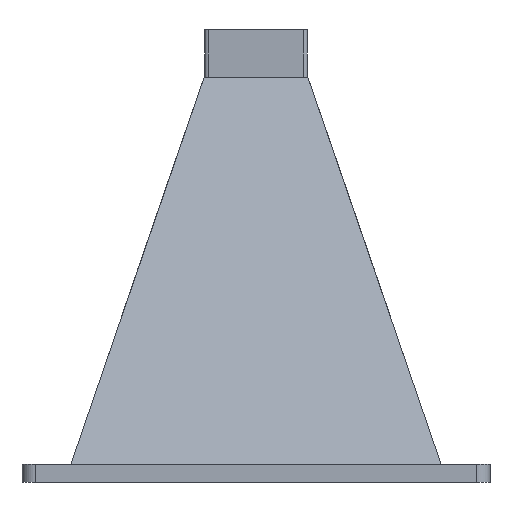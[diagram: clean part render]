
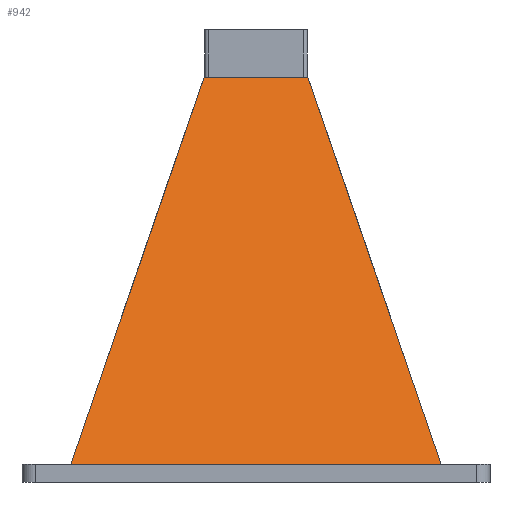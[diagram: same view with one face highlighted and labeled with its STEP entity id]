
A CAD part, front view. The second image highlights one B-rep face of the part: STEP entity #942.
In plain terms, the highlighted free-form (B-spline) face has degree [1, 1] with [2, 2] control points.
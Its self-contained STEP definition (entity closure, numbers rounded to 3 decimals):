
#43 = B_SPLINE_SURFACE_WITH_KNOTS('',1,1,(
    (#44,#45)
    ,(#46,#47
    )),.UNSPECIFIED.,.F.,.F.,.F.,(2,2),(2,2),(0.,85.112),(0.,1.
    ),.PIECEWISE_BEZIER_KNOTS.);
#44 = CARTESIAN_POINT('',(-11.538,-9.556,90.));
#45 = CARTESIAN_POINT('',(-42.538,-42.556,0.));
#46 = CARTESIAN_POINT('',(-11.538,9.556,90.));
#47 = CARTESIAN_POINT('',(-42.538,42.556,0.));
#70 = PLANE('',#71);
#71 = AXIS2_PLACEMENT_3D('',#72,#73,#74);
#72 = CARTESIAN_POINT('',(-11.538,9.556,90.));
#73 = DIRECTION('',(0.,0.,1.));
#74 = DIRECTION('',(0.77,-0.638,0.));
#97 = B_SPLINE_SURFACE_WITH_KNOTS('',1,1,(
    (#98,#99)
    ,(#100,#101
    )),.UNSPECIFIED.,.F.,.F.,.F.,(2,2),(2,2),(0.,85.112),(0.,1.
    ),.PIECEWISE_BEZIER_KNOTS.);
#98 = CARTESIAN_POINT('',(11.538,9.556,90.));
#99 = CARTESIAN_POINT('',(42.538,42.556,0.));
#100 = CARTESIAN_POINT('',(11.538,-9.556,90.));
#101 = CARTESIAN_POINT('',(42.538,-42.556,0.));
#121 = PLANE('',#122);
#122 = AXIS2_PLACEMENT_3D('',#123,#124,#125);
#123 = CARTESIAN_POINT('',(-52.,52.,4.));
#124 = DIRECTION('',(0.,0.,-1.));
#125 = DIRECTION('',(1.,0.,0.));
#135 = EDGE_CURVE('',#136,#138,#140,.T.);
#136 = VERTEX_POINT('',#137);
#137 = CARTESIAN_POINT('',(-11.538,-9.556,90.));
#138 = VERTEX_POINT('',#139);
#139 = CARTESIAN_POINT('',(-41.161,-41.09,4.));
#140 = SURFACE_CURVE('',#141,(#144,#151),.PCURVE_S1.);
#141 = B_SPLINE_CURVE_WITH_KNOTS('',1,(#142,#143),.UNSPECIFIED.,.F.,.F.,
  (2,2),(0.,1.),.PIECEWISE_BEZIER_KNOTS.);
#142 = CARTESIAN_POINT('',(-11.538,-9.556,90.));
#143 = CARTESIAN_POINT('',(-42.538,-42.556,0.));
#144 = PCURVE('',#43,#145);
#145 = DEFINITIONAL_REPRESENTATION('',(#146),#150);
#146 = LINE('',#147,#148);
#147 = CARTESIAN_POINT('',(0.,0.));
#148 = VECTOR('',#149,1.);
#149 = DIRECTION('',(0.,1.));
#150 = ( GEOMETRIC_REPRESENTATION_CONTEXT(2) 
PARAMETRIC_REPRESENTATION_CONTEXT() REPRESENTATION_CONTEXT('2D SPACE',''
  ) );
#151 = PCURVE('',#152,#157);
#152 = B_SPLINE_SURFACE_WITH_KNOTS('',1,1,(
    (#153,#154)
    ,(#155,#156
    )),.UNSPECIFIED.,.F.,.F.,.F.,(2,2),(2,2),(0.,85.077),(0.,1.
    ),.PIECEWISE_BEZIER_KNOTS.);
#153 = CARTESIAN_POINT('',(11.538,-9.556,90.));
#154 = CARTESIAN_POINT('',(42.538,-42.556,0.));
#155 = CARTESIAN_POINT('',(-11.538,-9.556,90.));
#156 = CARTESIAN_POINT('',(-42.538,-42.556,0.));
#157 = DEFINITIONAL_REPRESENTATION('',(#158),#162);
#158 = LINE('',#159,#160);
#159 = CARTESIAN_POINT('',(85.077,0.));
#160 = VECTOR('',#161,1.);
#161 = DIRECTION('',(0.,1.));
#162 = ( GEOMETRIC_REPRESENTATION_CONTEXT(2) 
PARAMETRIC_REPRESENTATION_CONTEXT() REPRESENTATION_CONTEXT('2D SPACE',''
  ) );
#550 = VERTEX_POINT('',#551);
#551 = CARTESIAN_POINT('',(41.161,-41.09,4.));
#571 = EDGE_CURVE('',#138,#550,#572,.T.);
#572 = SURFACE_CURVE('',#573,(#576,#582),.PCURVE_S1.);
#573 = B_SPLINE_CURVE_WITH_KNOTS('',1,(#574,#575),.UNSPECIFIED.,.F.,.F.,
  (2,2),(0.,1.),.PIECEWISE_BEZIER_KNOTS.);
#574 = CARTESIAN_POINT('',(-41.161,-41.09,4.));
#575 = CARTESIAN_POINT('',(41.161,-41.09,4.));
#576 = PCURVE('',#121,#577);
#577 = DEFINITIONAL_REPRESENTATION('',(#578),#581);
#578 = B_SPLINE_CURVE_WITH_KNOTS('',1,(#579,#580),.UNSPECIFIED.,.F.,.F.,
  (2,2),(0.,1.),.PIECEWISE_BEZIER_KNOTS.);
#579 = CARTESIAN_POINT('',(10.839,93.09));
#580 = CARTESIAN_POINT('',(93.161,93.09));
#581 = ( GEOMETRIC_REPRESENTATION_CONTEXT(2) 
PARAMETRIC_REPRESENTATION_CONTEXT() REPRESENTATION_CONTEXT('2D SPACE',''
  ) );
#582 = PCURVE('',#152,#583);
#583 = DEFINITIONAL_REPRESENTATION('',(#584),#587);
#584 = B_SPLINE_CURVE_WITH_KNOTS('',1,(#585,#586),.UNSPECIFIED.,.F.,.F.,
  (2,2),(0.,1.),.PIECEWISE_BEZIER_KNOTS.);
#585 = CARTESIAN_POINT('',(85.077,0.956));
#586 = CARTESIAN_POINT('',(0.,0.956));
#587 = ( GEOMETRIC_REPRESENTATION_CONTEXT(2) 
PARAMETRIC_REPRESENTATION_CONTEXT() REPRESENTATION_CONTEXT('2D SPACE',''
  ) );
#629 = VERTEX_POINT('',#630);
#630 = CARTESIAN_POINT('',(11.538,-9.556,90.));
#650 = EDGE_CURVE('',#629,#550,#651,.T.);
#651 = SURFACE_CURVE('',#652,(#655,#662),.PCURVE_S1.);
#652 = B_SPLINE_CURVE_WITH_KNOTS('',1,(#653,#654),.UNSPECIFIED.,.F.,.F.,
  (2,2),(0.,1.),.PIECEWISE_BEZIER_KNOTS.);
#653 = CARTESIAN_POINT('',(11.538,-9.556,90.));
#654 = CARTESIAN_POINT('',(42.538,-42.556,0.));
#655 = PCURVE('',#97,#656);
#656 = DEFINITIONAL_REPRESENTATION('',(#657),#661);
#657 = LINE('',#658,#659);
#658 = CARTESIAN_POINT('',(85.112,0.));
#659 = VECTOR('',#660,1.);
#660 = DIRECTION('',(0.,1.));
#661 = ( GEOMETRIC_REPRESENTATION_CONTEXT(2) 
PARAMETRIC_REPRESENTATION_CONTEXT() REPRESENTATION_CONTEXT('2D SPACE',''
  ) );
#662 = PCURVE('',#152,#663);
#663 = DEFINITIONAL_REPRESENTATION('',(#664),#668);
#664 = LINE('',#665,#666);
#665 = CARTESIAN_POINT('',(0.,0.));
#666 = VECTOR('',#667,1.);
#667 = DIRECTION('',(0.,1.));
#668 = ( GEOMETRIC_REPRESENTATION_CONTEXT(2) 
PARAMETRIC_REPRESENTATION_CONTEXT() REPRESENTATION_CONTEXT('2D SPACE',''
  ) );
#676 = EDGE_CURVE('',#629,#136,#677,.T.);
#677 = SURFACE_CURVE('',#678,(#682,#689),.PCURVE_S1.);
#678 = LINE('',#679,#680);
#679 = CARTESIAN_POINT('',(11.538,-9.556,90.));
#680 = VECTOR('',#681,1.);
#681 = DIRECTION('',(-1.,0.,0.));
#682 = PCURVE('',#70,#683);
#683 = DEFINITIONAL_REPRESENTATION('',(#684),#688);
#684 = LINE('',#685,#686);
#685 = CARTESIAN_POINT('',(29.964,0.));
#686 = VECTOR('',#687,1.);
#687 = DIRECTION('',(-0.77,-0.638));
#688 = ( GEOMETRIC_REPRESENTATION_CONTEXT(2) 
PARAMETRIC_REPRESENTATION_CONTEXT() REPRESENTATION_CONTEXT('2D SPACE',''
  ) );
#689 = PCURVE('',#152,#690);
#690 = DEFINITIONAL_REPRESENTATION('',(#691),#694);
#691 = B_SPLINE_CURVE_WITH_KNOTS('',1,(#692,#693),.UNSPECIFIED.,.F.,.F.,
  (2,2),(0.,23.077),.PIECEWISE_BEZIER_KNOTS.);
#692 = CARTESIAN_POINT('',(0.,0.));
#693 = CARTESIAN_POINT('',(85.077,0.));
#694 = ( GEOMETRIC_REPRESENTATION_CONTEXT(2) 
PARAMETRIC_REPRESENTATION_CONTEXT() REPRESENTATION_CONTEXT('2D SPACE',''
  ) );
#942 = ADVANCED_FACE('',(#943),#152,.T.);
#943 = FACE_BOUND('',#944,.T.);
#944 = EDGE_LOOP('',(#945,#946,#947,#948));
#945 = ORIENTED_EDGE('',*,*,#650,.F.);
#946 = ORIENTED_EDGE('',*,*,#676,.T.);
#947 = ORIENTED_EDGE('',*,*,#135,.T.);
#948 = ORIENTED_EDGE('',*,*,#571,.T.);
